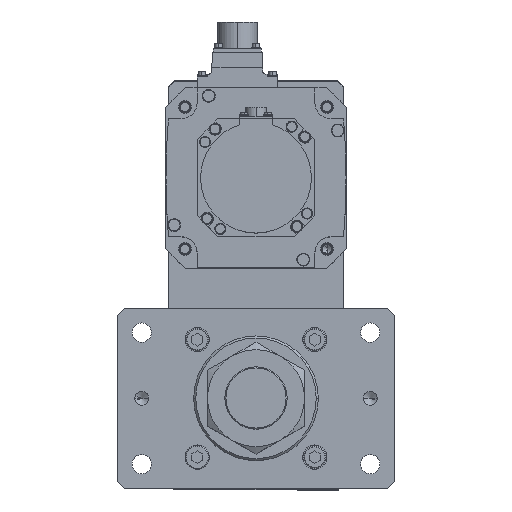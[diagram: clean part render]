
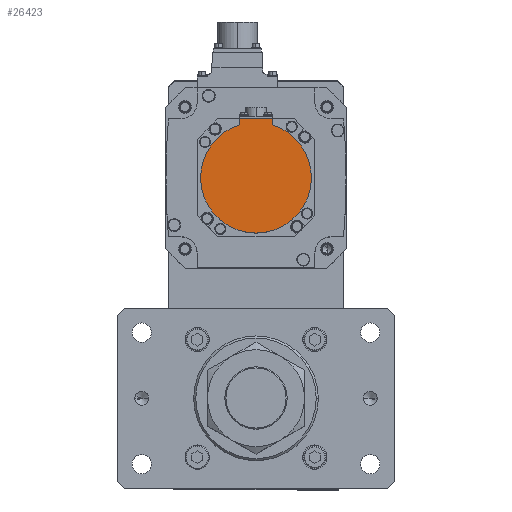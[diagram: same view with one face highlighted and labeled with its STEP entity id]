
A CAD part, top view. The second image highlights one B-rep face of the part: STEP entity #26423.
In plain terms, the highlighted planar face has unit normal (0, 0, 1) as drawn and (0, 0, -1) by its records, which use the part's own axes.
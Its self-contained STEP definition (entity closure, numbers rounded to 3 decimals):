
#257 = VERTEX_POINT ( 'NONE', #24333 ) ;
#767 = AXIS2_PLACEMENT_3D ( 'NONE', #11513, #27159, #16652 ) ;
#1385 = DIRECTION ( 'NONE',  ( 1., 0., 0. ) ) ;
#1699 = LINE ( 'NONE', #17353, #30524 ) ;
#1724 = CARTESIAN_POINT ( 'NONE',  ( 12., -42.5, -146.5 ) ) ;
#2118 = DIRECTION ( 'NONE',  ( 0., 0., 1. ) ) ;
#3362 = PLANE ( 'NONE',  #767 ) ;
#4458 = AXIS2_PLACEMENT_3D ( 'NONE', #34585, #2118, #7637 ) ;
#4674 = DIRECTION ( 'NONE',  ( 0., 1., 0. ) ) ;
#5494 = AXIS2_PLACEMENT_3D ( 'NONE', #34316, #15399, #18300 ) ;
#5615 = VECTOR ( 'NONE', #4674, 1000. ) ;
#7637 = DIRECTION ( 'NONE',  ( 1., 0., 0. ) ) ;
#8534 = DIRECTION ( 'NONE',  ( 0., 1., 0. ) ) ;
#9374 = CARTESIAN_POINT ( 'NONE',  ( 0., 0., -146.5 ) ) ;
#9615 = ORIENTED_EDGE ( 'NONE', *, *, #27876, .F. ) ;
#11513 = CARTESIAN_POINT ( 'NONE',  ( 0., -1.249, -146.5 ) ) ;
#13656 = EDGE_LOOP ( 'NONE', ( #23776, #32008, #31707, #9615, #32133, #16777 ) ) ;
#13746 = VERTEX_POINT ( 'NONE', #22066 ) ;
#14084 = EDGE_CURVE ( 'NONE', #23075, #13746, #30377, .T. ) ;
#14646 = VERTEX_POINT ( 'NONE', #1724 ) ;
#14696 = DIRECTION ( 'NONE',  ( 0., 0., 1. ) ) ;
#15233 = CARTESIAN_POINT ( 'NONE',  ( -40., 0., -146.5 ) ) ;
#15286 = CARTESIAN_POINT ( 'NONE',  ( 12., -1.249, -146.5 ) ) ;
#15399 = DIRECTION ( 'NONE',  ( 0., 0., 1. ) ) ;
#16652 = DIRECTION ( 'NONE',  ( 1., 0., 0. ) ) ;
#16777 = ORIENTED_EDGE ( 'NONE', *, *, #33895, .T. ) ;
#16943 = EDGE_CURVE ( 'NONE', #31606, #13746, #26471, .T. ) ;
#17353 = CARTESIAN_POINT ( 'NONE',  ( 0., -42.5, -146.5 ) ) ;
#18250 = AXIS2_PLACEMENT_3D ( 'NONE', #9374, #14696, #1385 ) ;
#18261 = CIRCLE ( 'NONE', #5494, 40. ) ;
#18300 = DIRECTION ( 'NONE',  ( 1., 0., 0. ) ) ;
#20089 = VERTEX_POINT ( 'NONE', #31442 ) ;
#22066 = CARTESIAN_POINT ( 'NONE',  ( -12., -38.158, -146.5 ) ) ;
#22706 = DIRECTION ( 'NONE',  ( -1., 0., 0. ) ) ;
#22908 = CARTESIAN_POINT ( 'NONE',  ( -12., -42.5, -146.5 ) ) ;
#23075 = VERTEX_POINT ( 'NONE', #15233 ) ;
#23776 = ORIENTED_EDGE ( 'NONE', *, *, #16943, .T. ) ;
#24333 = CARTESIAN_POINT ( 'NONE',  ( 12., -38.158, -146.5 ) ) ;
#24590 = CARTESIAN_POINT ( 'NONE',  ( -12., -40.329, -146.5 ) ) ;
#26261 = EDGE_CURVE ( 'NONE', #20089, #23075, #18261, .T. ) ;
#26423 = ADVANCED_FACE ( 'NONE', ( #33713 ), #3362, .F. ) ;
#26471 = LINE ( 'NONE', #24590, #30218 ) ;
#26910 = LINE ( 'NONE', #15286, #5615 ) ;
#27159 = DIRECTION ( 'NONE',  ( 0., 0., 1. ) ) ;
#27876 = EDGE_CURVE ( 'NONE', #257, #20089, #34252, .T. ) ;
#30218 = VECTOR ( 'NONE', #8534, 1000. ) ;
#30377 = CIRCLE ( 'NONE', #4458, 40. ) ;
#30524 = VECTOR ( 'NONE', #22706, 1000. ) ;
#31089 = EDGE_CURVE ( 'NONE', #14646, #257, #26910, .T. ) ;
#31442 = CARTESIAN_POINT ( 'NONE',  ( 40., 0., -146.5 ) ) ;
#31606 = VERTEX_POINT ( 'NONE', #22908 ) ;
#31707 = ORIENTED_EDGE ( 'NONE', *, *, #26261, .F. ) ;
#32008 = ORIENTED_EDGE ( 'NONE', *, *, #14084, .F. ) ;
#32133 = ORIENTED_EDGE ( 'NONE', *, *, #31089, .F. ) ;
#33713 = FACE_OUTER_BOUND ( 'NONE', #13656, .T. ) ;
#33895 = EDGE_CURVE ( 'NONE', #14646, #31606, #1699, .T. ) ;
#34252 = CIRCLE ( 'NONE', #18250, 40. ) ;
#34316 = CARTESIAN_POINT ( 'NONE',  ( 0., 0., -146.5 ) ) ;
#34585 = CARTESIAN_POINT ( 'NONE',  ( 0., 0., -146.5 ) ) ;
